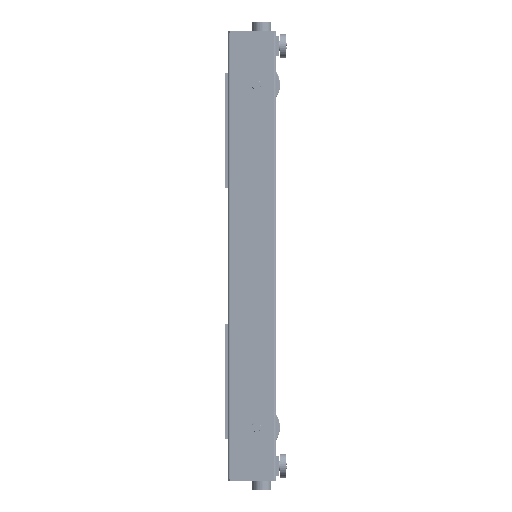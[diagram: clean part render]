
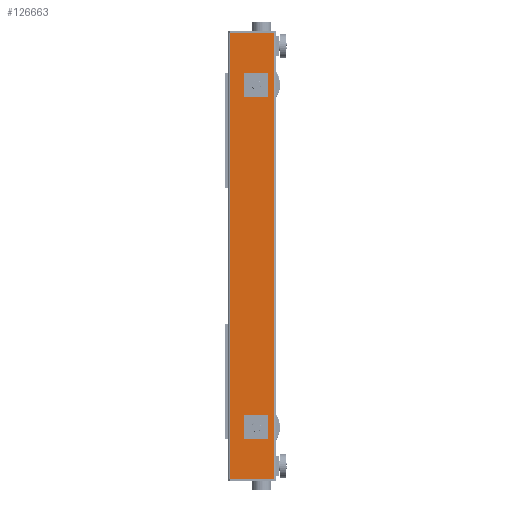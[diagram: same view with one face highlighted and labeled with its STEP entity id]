
A CAD part, left-side view. The second image highlights one B-rep face of the part: STEP entity #126663.
In plain terms, the highlighted planar face has unit normal (-1, 0, 0).
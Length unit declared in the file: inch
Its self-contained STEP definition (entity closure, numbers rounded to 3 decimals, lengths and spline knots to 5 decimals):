
#2288 = CARTESIAN_POINT ( 'NONE',  ( 0., 9.5, 46.21875 ) ) ;
#2453 = CIRCLE ( 'NONE', #97906, 0.984 ) ;
#4816 = CARTESIAN_POINT ( 'NONE',  ( 0., 4.109, -35.49975 ) ) ;
#6929 = FACE_BOUND ( 'NONE', #90195, .T. ) ;
#7601 = AXIS2_PLACEMENT_3D ( 'NONE', #4816, #54073, #129128 ) ;
#8481 = DIRECTION ( 'NONE',  ( 1., 0., 0. ) ) ;
#13759 = DIRECTION ( 'NONE',  ( 0., 0., -1. ) ) ;
#13834 = ORIENTED_EDGE ( 'NONE', *, *, #91674, .T. ) ;
#18999 = EDGE_CURVE ( 'NONE', #141441, #60707, #2453, .T. ) ;
#19813 = CARTESIAN_POINT ( 'NONE',  ( 0., 0.5, 46.21875 ) ) ;
#26622 = CARTESIAN_POINT ( 'NONE',  ( 0., 4.109, -36.48375 ) ) ;
#28510 = CARTESIAN_POINT ( 'NONE',  ( 0., 4.109, -34.51575 ) ) ;
#30935 = VERTEX_POINT ( 'NONE', #50683 ) ;
#31747 = CARTESIAN_POINT ( 'NONE',  ( 0., 4.109, 36.48425 ) ) ;
#34924 = CARTESIAN_POINT ( 'NONE',  ( 0., 9.5, 46.21875 ) ) ;
#36191 = VECTOR ( 'NONE', #136314, 39.37008 ) ;
#39006 = CARTESIAN_POINT ( 'NONE',  ( 0., 4.109, 35.50025 ) ) ;
#41587 = DIRECTION ( 'NONE',  ( 0., -1., 0. ) ) ;
#43642 = DIRECTION ( 'NONE',  ( 0., -1., 0. ) ) ;
#44503 = VECTOR ( 'NONE', #43642, 39.37008 ) ;
#49543 = CARTESIAN_POINT ( 'NONE',  ( 0., 4.109, 34.51625 ) ) ;
#49577 = VERTEX_POINT ( 'NONE', #26622 ) ;
#49904 = CIRCLE ( 'NONE', #85984, 0.984 ) ;
#50683 = CARTESIAN_POINT ( 'NONE',  ( 0., 9.5, -46.21875 ) ) ;
#51113 = DIRECTION ( 'NONE',  ( 1., 0., 0. ) ) ;
#53388 = CARTESIAN_POINT ( 'NONE',  ( 0., 4.109, -35.49975 ) ) ;
#54073 = DIRECTION ( 'NONE',  ( 1., 0., 0. ) ) ;
#54171 = DIRECTION ( 'NONE',  ( 0., 0., -1. ) ) ;
#60707 = VERTEX_POINT ( 'NONE', #49543 ) ;
#67795 = AXIS2_PLACEMENT_3D ( 'NONE', #19813, #8481, #106191 ) ;
#68875 = AXIS2_PLACEMENT_3D ( 'NONE', #53388, #89728, #54171 ) ;
#71710 = EDGE_LOOP ( 'NONE', ( #151156, #146198 ) ) ;
#72713 = LINE ( 'NONE', #134108, #123102 ) ;
#73336 = ORIENTED_EDGE ( 'NONE', *, *, #133814, .F. ) ;
#75166 = EDGE_CURVE ( 'NONE', #154465, #49577, #77203, .T. ) ;
#77203 = CIRCLE ( 'NONE', #7601, 0.984 ) ;
#78893 = VERTEX_POINT ( 'NONE', #34924 ) ;
#85984 = AXIS2_PLACEMENT_3D ( 'NONE', #121194, #158313, #13759 ) ;
#86940 = ORIENTED_EDGE ( 'NONE', *, *, #142688, .T. ) ;
#87830 = CARTESIAN_POINT ( 'NONE',  ( 0., 0.5, 46.21875 ) ) ;
#89728 = DIRECTION ( 'NONE',  ( 1., 0., 0. ) ) ;
#90195 = EDGE_LOOP ( 'NONE', ( #86940, #125165 ) ) ;
#91674 = EDGE_CURVE ( 'NONE', #78893, #30935, #129976, .T. ) ;
#94886 = EDGE_CURVE ( 'NONE', #78893, #147734, #116629, .T. ) ;
#97906 = AXIS2_PLACEMENT_3D ( 'NONE', #39006, #51113, #135078 ) ;
#102795 = EDGE_CURVE ( 'NONE', #49577, #154465, #146200, .T. ) ;
#102937 = CARTESIAN_POINT ( 'NONE',  ( 0., 0.5, 46.21875 ) ) ;
#105791 = CARTESIAN_POINT ( 'NONE',  ( 0., 0.5, -46.21875 ) ) ;
#106191 = DIRECTION ( 'NONE',  ( 0., 0., -1. ) ) ;
#107663 = EDGE_LOOP ( 'NONE', ( #126329, #73336, #148785, #13834 ) ) ;
#109914 = DIRECTION ( 'NONE',  ( 0., 0., -1. ) ) ;
#111657 = VECTOR ( 'NONE', #41587, 39.37008 ) ;
#116629 = LINE ( 'NONE', #102937, #111657 ) ;
#116738 = FACE_BOUND ( 'NONE', #71710, .T. ) ;
#121194 = CARTESIAN_POINT ( 'NONE',  ( 0., 4.109, 35.50025 ) ) ;
#123102 = VECTOR ( 'NONE', #109914, 39.37008 ) ;
#125165 = ORIENTED_EDGE ( 'NONE', *, *, #18999, .T. ) ;
#125771 = EDGE_CURVE ( 'NONE', #30935, #158168, #130029, .T. ) ;
#126329 = ORIENTED_EDGE ( 'NONE', *, *, #125771, .T. ) ;
#126663 = ADVANCED_FACE ( 'NONE', ( #116738, #6929, #142536 ), #130453, .F. ) ;
#129128 = DIRECTION ( 'NONE',  ( 0., 0., -1. ) ) ;
#129976 = LINE ( 'NONE', #2288, #36191 ) ;
#130029 = LINE ( 'NONE', #105791, #44503 ) ;
#130453 = PLANE ( 'NONE',  #67795 ) ;
#133814 = EDGE_CURVE ( 'NONE', #147734, #158168, #72713, .T. ) ;
#134108 = CARTESIAN_POINT ( 'NONE',  ( 0., 0.5, 46.21875 ) ) ;
#135078 = DIRECTION ( 'NONE',  ( 0., 0., -1. ) ) ;
#136314 = DIRECTION ( 'NONE',  ( 0., 0., -1. ) ) ;
#137570 = CARTESIAN_POINT ( 'NONE',  ( 0., 0.5, -46.21875 ) ) ;
#141441 = VERTEX_POINT ( 'NONE', #31747 ) ;
#142536 = FACE_OUTER_BOUND ( 'NONE', #107663, .T. ) ;
#142688 = EDGE_CURVE ( 'NONE', #60707, #141441, #49904, .T. ) ;
#146198 = ORIENTED_EDGE ( 'NONE', *, *, #75166, .T. ) ;
#146200 = CIRCLE ( 'NONE', #68875, 0.984 ) ;
#147734 = VERTEX_POINT ( 'NONE', #87830 ) ;
#148785 = ORIENTED_EDGE ( 'NONE', *, *, #94886, .F. ) ;
#151156 = ORIENTED_EDGE ( 'NONE', *, *, #102795, .T. ) ;
#154465 = VERTEX_POINT ( 'NONE', #28510 ) ;
#158168 = VERTEX_POINT ( 'NONE', #137570 ) ;
#158313 = DIRECTION ( 'NONE',  ( 1., 0., 0. ) ) ;
